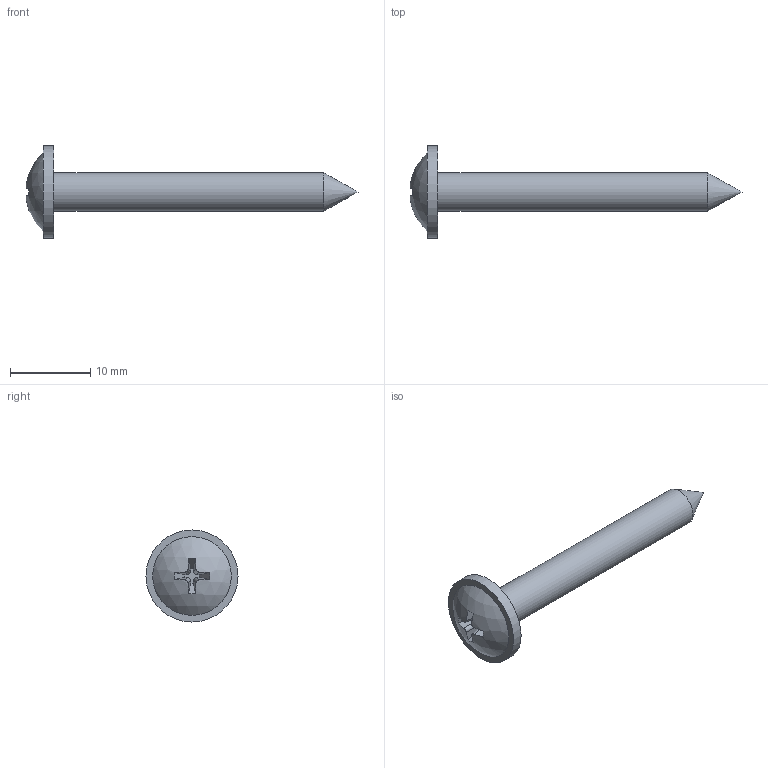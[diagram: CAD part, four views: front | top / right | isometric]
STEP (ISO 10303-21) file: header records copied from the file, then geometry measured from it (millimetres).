
FILE_DESCRIPTION (( 'STEP AP203' ), '1' );
FILE_NAME ('Vis à tôle tête bombée à embase plate empreinte cruciforme DIN 968 - ST4.8 x 38 - C - H.STEP', '2026-06-24T07:29:51', ( '' ), ( '' ), 'SwSTEP 2.0', 'SolidWorks 2024', '' );
FILE_SCHEMA (( 'CONFIG_CONTROL_DESIGN' ));
Length unit declared in the file: millimetre
Products named in the file (1): Vis à tôle tête bombée à embase plate empreinte cruciforme DIN 968 - ST4.8 x 38 - C - H_Screw DIN 968-ST4.8x38-C-H-C
Bounding box: 41.49 x 11.5 x 11.5 mm (x, y, z)
Volume: 856 mm3; surface area: 818.7 mm2
Topology: 1 solids, 1 shells, 23 faces, 57 edges, 38 vertices
Faces by surface type: plane 15, cylinder 6, sphere 1, cone 1
Full cylindrical faces by diameter (mm): 4.8 x1, 11.5 x1
Entity records: 751 total; most frequent: CARTESIAN_POINT 146, DIRECTION 110, ORIENTED_EDGE 106, EDGE_CURVE 53, AXIS2_PLACEMENT_3D 41, VERTEX_POINT 37, EDGE_LOOP 28, VECTOR 28
